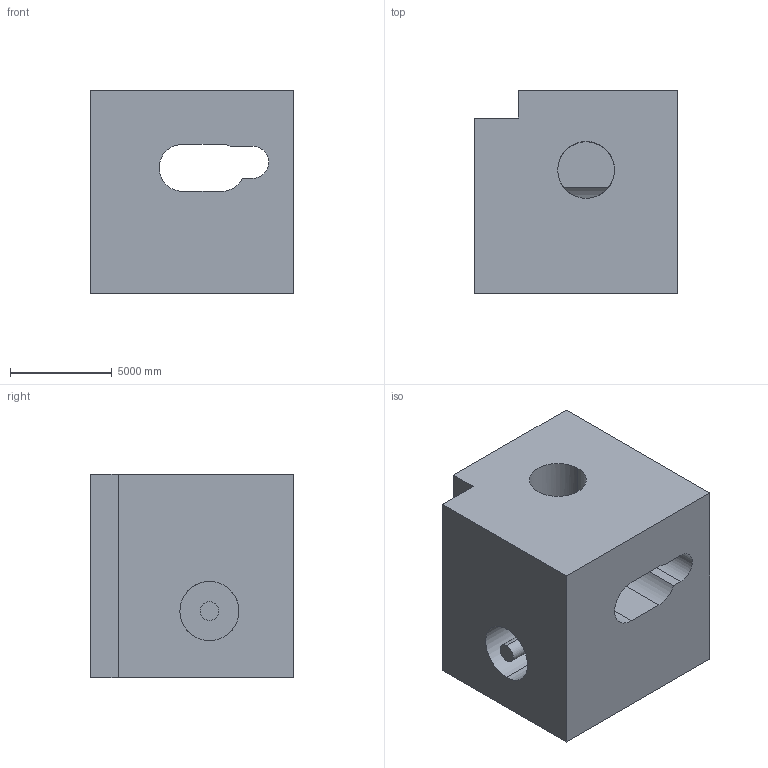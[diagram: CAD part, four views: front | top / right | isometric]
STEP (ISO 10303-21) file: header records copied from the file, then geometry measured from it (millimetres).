
FILE_DESCRIPTION (( 'STEP AP203' ), '1' );
FILE_NAME ('536.STEP', '2022-07-29T11:42:27', ( 'user' ), ( '' ), 'SwSTEP 2.0', 'SolidWorks 2021', '' );
FILE_SCHEMA (( 'CONFIG_CONTROL_DESIGN' ));
Length unit declared in the file: centimetre
Products named in the file (1): 536
Bounding box: 10000 x 10000 x 10000 mm (x, y, z)
Volume: 772628974157.4 mm3; surface area: 850870206.6 mm2
Topology: 1 solids, 1 shells, 36 faces, 102 edges, 68 vertices
Faces by surface type: plane 23, cylinder 13
Entity records: 1807 total; most frequent: CARTESIAN_POINT 764, ORIENTED_EDGE 204, DIRECTION 196, EDGE_CURVE 102, VERTEX_POINT 68, AXIS2_PLACEMENT_3D 66, LINE 64, VECTOR 64
